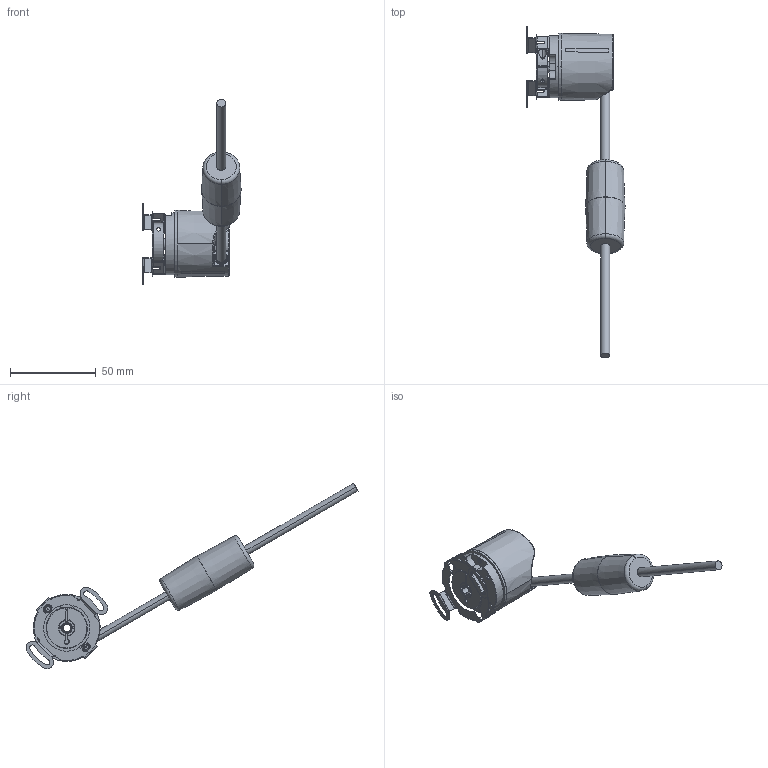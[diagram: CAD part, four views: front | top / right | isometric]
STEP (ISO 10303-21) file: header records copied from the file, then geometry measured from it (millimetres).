
FILE_DESCRIPTION (( 'STEP AP214' ), '1' );
FILE_NAME ('F3688.2521.XXXX.STEP', '2010-11-16T07:29:03', ( 'admin' ), ( 'Fritz Kübler GmbH' ), 'SwSTEP 2.0', 'SolidWorks 2009', '' );
FILE_SCHEMA (( 'AUTOMOTIVE_DESIGN' ));
Length unit declared in the file: millimetre
Products named in the file (1): F3688.2521.XXXX
Bounding box: 57.1 x 193.11 x 107.83 mm (x, y, z)
Surface area: 17004 mm2 (no closed solid volume)
Topology: 0 solids, 12 shells, 297 faces, 895 edges, 583 vertices
Faces by surface type: cylinder 112, plane 103, cone 42, torus 27, bspline 11, sphere 2
Entity records: 14774 total; most frequent: CARTESIAN_POINT 3530, DIRECTION 1734, ORIENTED_EDGE 1512, EDGE_CURVE 894, AXIS2_PLACEMENT_3D 662, VERTEX_POINT 583, VECTOR 410, LINE 410
